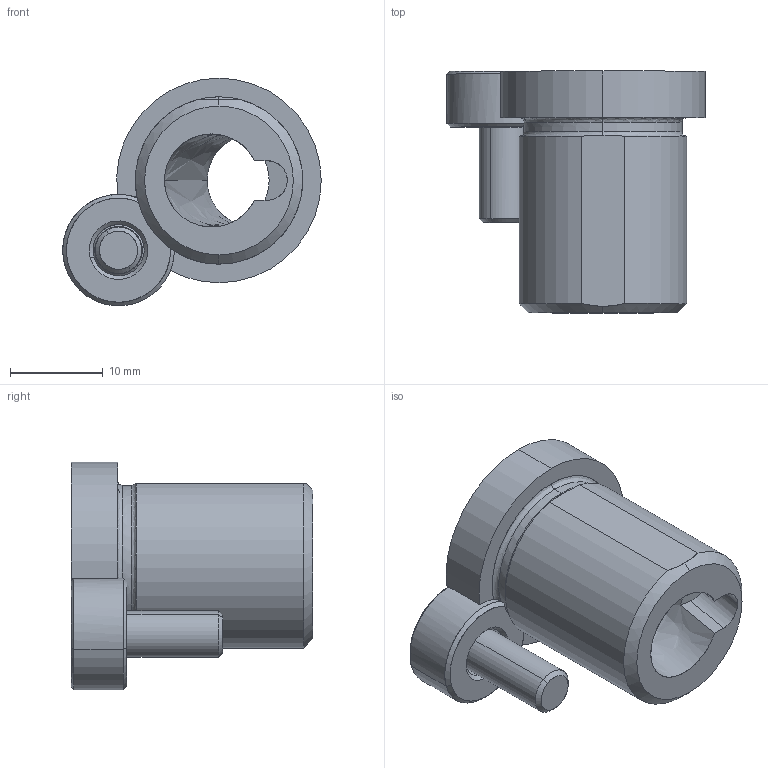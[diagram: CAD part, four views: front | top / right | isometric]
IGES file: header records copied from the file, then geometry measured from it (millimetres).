
Start section: START RECORD GO HERE.
Global section: file name: gr182622-10.igs; native system: DASSAULT SYSTEMES CATIA V5 R20 - www.3ds.com; preprocessor: CATIA Version 5 Release 20 ; author: Utente; organization: NB04-ASUS; date: 20201108.075606; units: millimetre
Bounding box: 27.8 x 26 x 24.48 mm (x, y, z)
Surface area: 3914.8 mm2 (no closed solid volume)
Topology: 0 solids, 0 shells, 73 faces, 330 edges, 328 vertices
Faces by surface type: revolution 48, plane 25
